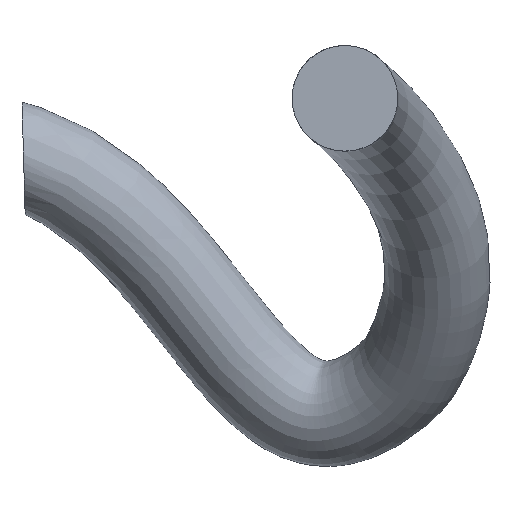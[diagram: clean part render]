
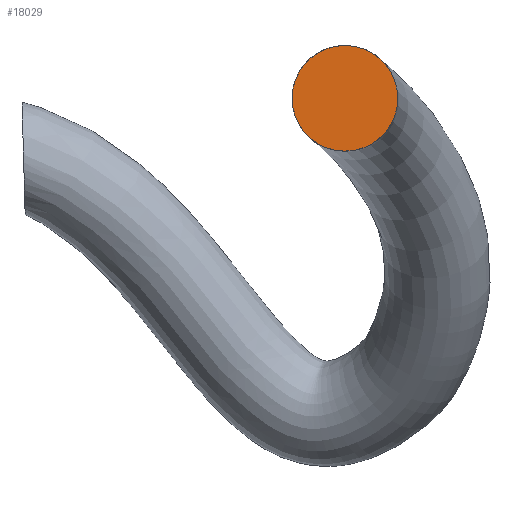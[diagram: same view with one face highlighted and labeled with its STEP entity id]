
A CAD part, front view. The second image highlights one B-rep face of the part: STEP entity #18029.
In plain terms, the highlighted planar face has unit normal (0, -1, 0).
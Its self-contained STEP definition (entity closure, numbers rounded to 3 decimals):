
#67 = CARTESIAN_POINT ( 'NONE',  ( 2535., -84.598, 2567. ) ) ;
#1503 = AXIS2_PLACEMENT_3D ( 'NONE', #67, #42485, #34611 ) ;
#3623 = PLANE ( 'NONE',  #29885 ) ;
#6923 = FACE_OUTER_BOUND ( 'NONE', #11504, .T. ) ;
#7688 = DIRECTION ( 'NONE',  ( -1., 0., 0. ) ) ;
#8812 = CIRCLE ( 'NONE', #1503, 43. ) ;
#10569 = EDGE_CURVE ( 'NONE', #46829, #46829, #8812, .T. ) ;
#11504 = EDGE_LOOP ( 'NONE', ( #49596 ) ) ;
#11787 = CARTESIAN_POINT ( 'NONE',  ( 2492., -84.598, 2567. ) ) ;
#18029 = ADVANCED_FACE ( 'NONE', ( #6923 ), #3623, .F. ) ;
#19115 = CARTESIAN_POINT ( 'NONE',  ( 2535., -84.598, 2567. ) ) ;
#29885 = AXIS2_PLACEMENT_3D ( 'NONE', #19115, #46555, #7688 ) ;
#34611 = DIRECTION ( 'NONE',  ( -1., 0., 0. ) ) ;
#42485 = DIRECTION ( 'NONE',  ( 0., 1., 0. ) ) ;
#46555 = DIRECTION ( 'NONE',  ( 0., 1., 0. ) ) ;
#46829 = VERTEX_POINT ( 'NONE', #11787 ) ;
#49596 = ORIENTED_EDGE ( 'NONE', *, *, #10569, .F. ) ;
